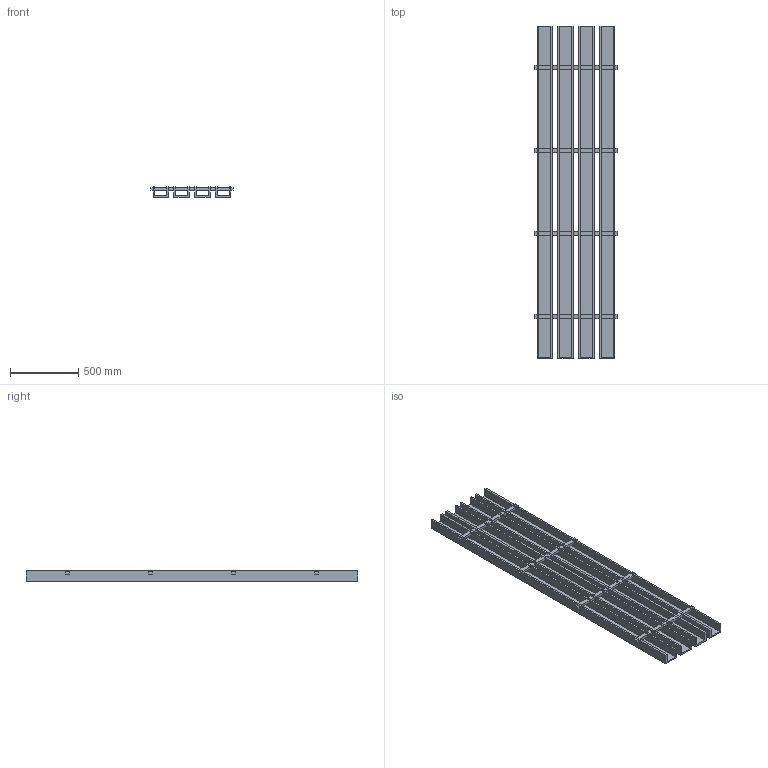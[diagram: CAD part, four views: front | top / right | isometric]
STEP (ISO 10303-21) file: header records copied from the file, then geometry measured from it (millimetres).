
FILE_DESCRIPTION(/* description */ (''),/* implementation_level */ '2;1');
FILE_NAME(/* name */ 'PET GRILLA_4.5x3_8ft',/* time_stamp */ '2024-10-15T14:22:17-05:00',/* author */ (''),/* organization */ (''),/* preprocessor_version */ 'ST-DEVELOPER v19.2',/* originating_system */ 'Rhino 8.4',/* authorisation */ '');
FILE_SCHEMA (('CONFIG_CONTROL_DESIGN'));
Length unit declared in the file: inch
Products named in the file (1): Document
Bounding box: 603.25 x 2438.4 x 76.2 mm (x, y, z)
Volume: 31103671.7 mm3; surface area: 5149344.5 mm2
Topology: 1 solids, 1 shells, 192 faces, 528 edges, 352 vertices
Faces by surface type: plane 192
Entity records: 5440 total; most frequent: CARTESIAN_POINT 1602, ORIENTED_EDGE 1056, EDGE_CURVE 528, B_SPLINE_CURVE_WITH_KNOTS 528, VERTEX_POINT 352, EDGE_LOOP 256, DIRECTION 196, AXIS2_PLACEMENT_3D 194
